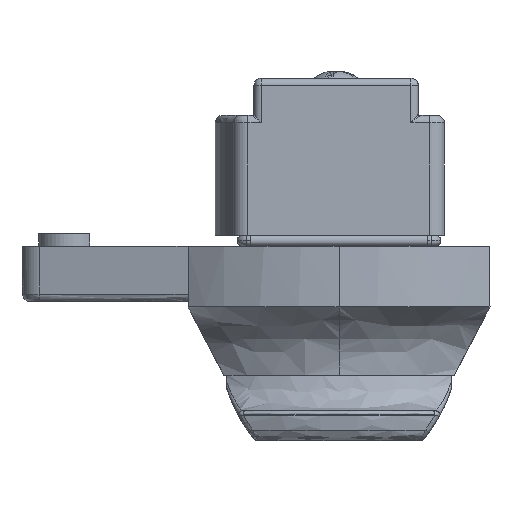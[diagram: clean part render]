
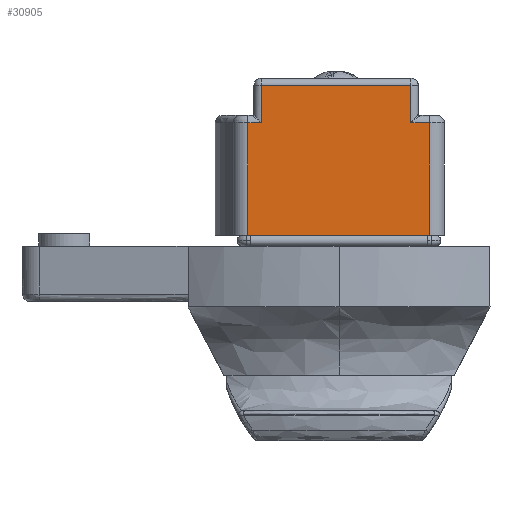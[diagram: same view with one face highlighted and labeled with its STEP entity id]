
A CAD part, left-side view. The second image highlights one B-rep face of the part: STEP entity #30905.
In plain terms, the highlighted planar face has unit normal (-1, 0, 0) as drawn and (1, 0, 0) by its records, which use the part's own axes.
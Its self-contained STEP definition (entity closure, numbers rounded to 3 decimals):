
#862 = EDGE_CURVE ( 'NONE', #36822, #10100, #19353, .T. ) ;
#1602 = CARTESIAN_POINT ( 'NONE',  ( 27.3, 10.85, 15. ) ) ;
#2680 = VERTEX_POINT ( 'NONE', #24219 ) ;
#2900 = FACE_OUTER_BOUND ( 'NONE', #29891, .T. ) ;
#3881 = VERTEX_POINT ( 'NONE', #1602 ) ;
#4424 = DIRECTION ( 'NONE',  ( 0., 1., 0. ) ) ;
#4619 = CARTESIAN_POINT ( 'NONE',  ( 27.3, 13.35, 0. ) ) ;
#4624 = AXIS2_PLACEMENT_3D ( 'NONE', #5489, #24599, #11112 ) ;
#4770 = CARTESIAN_POINT ( 'NONE',  ( 27.3, -10.95, 15. ) ) ;
#4779 = VERTEX_POINT ( 'NONE', #21218 ) ;
#4952 = VECTOR ( 'NONE', #24908, 1000. ) ;
#4976 = VERTEX_POINT ( 'NONE', #19289 ) ;
#5000 = CARTESIAN_POINT ( 'NONE',  ( 27.3, 13.35, 15. ) ) ;
#5171 = DIRECTION ( 'NONE',  ( 0., -1., 0. ) ) ;
#5275 = LINE ( 'NONE', #23177, #4952 ) ;
#5489 = CARTESIAN_POINT ( 'NONE',  ( 27.3, 13.35, 16. ) ) ;
#5533 = VERTEX_POINT ( 'NONE', #13157 ) ;
#8289 = PLANE ( 'NONE',  #4624 ) ;
#9460 = VERTEX_POINT ( 'NONE', #22117 ) ;
#10100 = VERTEX_POINT ( 'NONE', #10261 ) ;
#10261 = CARTESIAN_POINT ( 'NONE',  ( 27.3, -10.95, 0. ) ) ;
#10755 = CARTESIAN_POINT ( 'NONE',  ( 27.3, -9.15, 16. ) ) ;
#10948 = VECTOR ( 'NONE', #31130, 1000. ) ;
#10965 = DIRECTION ( 'NONE',  ( 0., 0., -1. ) ) ;
#11112 = DIRECTION ( 'NONE',  ( 0., 0., 1. ) ) ;
#11376 = LINE ( 'NONE', #31334, #10948 ) ;
#13157 = CARTESIAN_POINT ( 'NONE',  ( 27.3, -9.15, 15. ) ) ;
#15313 = EDGE_CURVE ( 'NONE', #2680, #9460, #5275, .T. ) ;
#17706 = EDGE_CURVE ( 'NONE', #2680, #3881, #11376, .T. ) ;
#18381 = EDGE_CURVE ( 'NONE', #3881, #4779, #33731, .T. ) ;
#18686 = VECTOR ( 'NONE', #5171, 1000. ) ;
#18917 = EDGE_CURVE ( 'NONE', #4779, #4976, #34639, .T. ) ;
#19191 = VECTOR ( 'NONE', #27243, 1000. ) ;
#19289 = CARTESIAN_POINT ( 'NONE',  ( 27.3, -9.15, 20. ) ) ;
#19353 = LINE ( 'NONE', #27829, #19191 ) ;
#19831 = LINE ( 'NONE', #5000, #18686 ) ;
#20265 = EDGE_CURVE ( 'NONE', #4976, #5533, #23537, .T. ) ;
#20797 = EDGE_CURVE ( 'NONE', #5533, #36822, #19831, .T. ) ;
#21218 = CARTESIAN_POINT ( 'NONE',  ( 27.3, 10.85, 20. ) ) ;
#22117 = CARTESIAN_POINT ( 'NONE',  ( 27.3, 13.35, 0. ) ) ;
#23177 = CARTESIAN_POINT ( 'NONE',  ( 27.3, 13.35, 16. ) ) ;
#23360 = VECTOR ( 'NONE', #10965, 1000. ) ;
#23537 = LINE ( 'NONE', #10755, #23360 ) ;
#24219 = CARTESIAN_POINT ( 'NONE',  ( 27.3, 13.35, 15. ) ) ;
#24599 = DIRECTION ( 'NONE',  ( -1., 0., 0. ) ) ;
#24908 = DIRECTION ( 'NONE',  ( 0., 0., -1. ) ) ;
#25648 = VECTOR ( 'NONE', #4424, 1000. ) ;
#25689 = LINE ( 'NONE', #4619, #25648 ) ;
#25744 = VECTOR ( 'NONE', #35207, 1000. ) ;
#26662 = EDGE_CURVE ( 'NONE', #10100, #9460, #25689, .T. ) ;
#27243 = DIRECTION ( 'NONE',  ( 0., 0., -1. ) ) ;
#27829 = CARTESIAN_POINT ( 'NONE',  ( 27.3, -10.95, 16. ) ) ;
#29891 = EDGE_LOOP ( 'NONE', ( #35054, #35541, #35983, #36218, #36301, #36724, #36824, #36864 ) ) ;
#29926 = CARTESIAN_POINT ( 'NONE',  ( 27.3, 13.35, 20. ) ) ;
#30099 = DIRECTION ( 'NONE',  ( 0., -1., 0. ) ) ;
#30905 = ADVANCED_FACE ( 'NONE', ( #2900 ), #8289, .F. ) ;
#31130 = DIRECTION ( 'NONE',  ( 0., -1., 0. ) ) ;
#31334 = CARTESIAN_POINT ( 'NONE',  ( 27.3, 13.35, 15. ) ) ;
#33731 = LINE ( 'NONE', #35335, #25744 ) ;
#34106 = VECTOR ( 'NONE', #30099, 1000. ) ;
#34639 = LINE ( 'NONE', #29926, #34106 ) ;
#35054 = ORIENTED_EDGE ( 'NONE', *, *, #15313, .F. ) ;
#35207 = DIRECTION ( 'NONE',  ( 0., 0., 1. ) ) ;
#35335 = CARTESIAN_POINT ( 'NONE',  ( 27.3, 10.85, 16. ) ) ;
#35541 = ORIENTED_EDGE ( 'NONE', *, *, #17706, .T. ) ;
#35983 = ORIENTED_EDGE ( 'NONE', *, *, #18381, .T. ) ;
#36218 = ORIENTED_EDGE ( 'NONE', *, *, #18917, .T. ) ;
#36301 = ORIENTED_EDGE ( 'NONE', *, *, #20265, .T. ) ;
#36724 = ORIENTED_EDGE ( 'NONE', *, *, #20797, .T. ) ;
#36822 = VERTEX_POINT ( 'NONE', #4770 ) ;
#36824 = ORIENTED_EDGE ( 'NONE', *, *, #862, .T. ) ;
#36864 = ORIENTED_EDGE ( 'NONE', *, *, #26662, .T. ) ;
